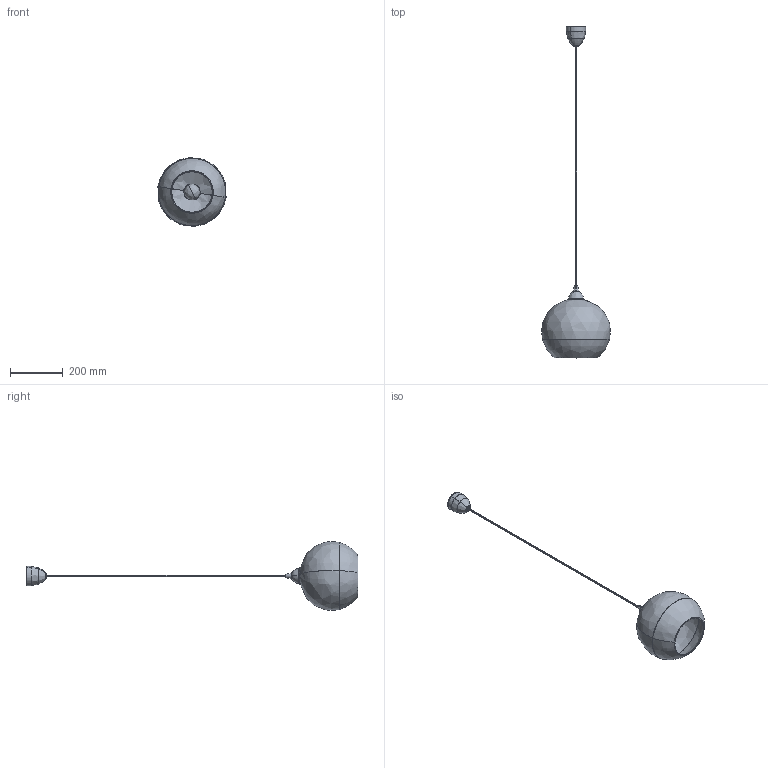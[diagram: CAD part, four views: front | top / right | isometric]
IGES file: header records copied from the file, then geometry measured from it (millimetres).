
Start section: SolidWorks IGES file using analytic representation for surfaces
Global section: file name: E:\3D lampy\Globe\Globe S\Globe_4953,5764.IGS; native system: SolidWorks 2016; preprocessor: SolidWorks 2016; author: Asia; date: 170929.101701; units: millimetre
Bounding box: 258.18 x 1254.81 x 260.75 mm (x, y, z)
Surface area: 508899.7 mm2 (no closed solid volume)
Topology: 0 solids, 0 shells, 272 faces, 5335 edges, 5315 vertices
Faces by surface type: revolution 136, bspline 136
